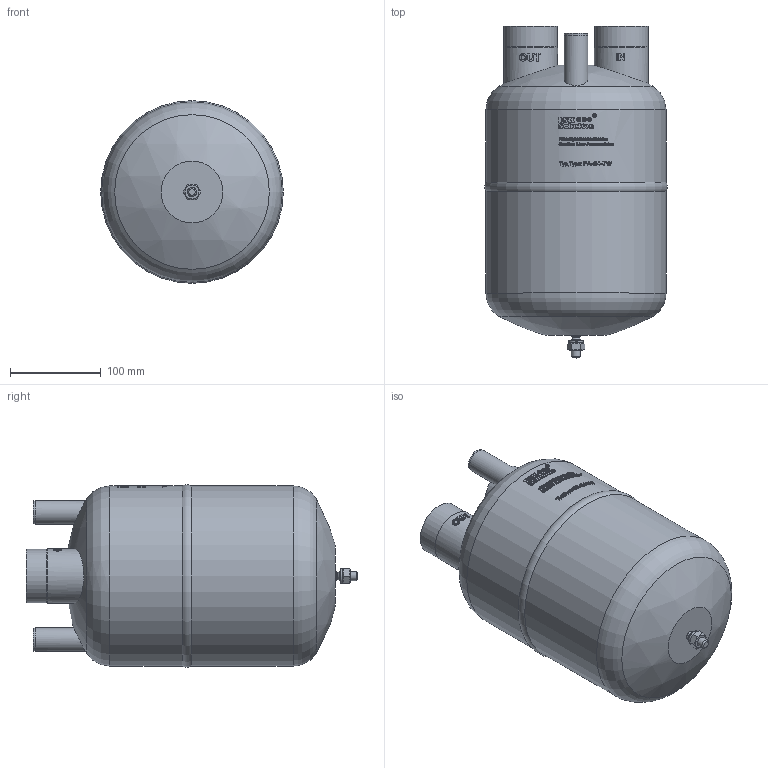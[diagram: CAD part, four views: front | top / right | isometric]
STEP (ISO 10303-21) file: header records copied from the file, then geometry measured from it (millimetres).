
FILE_DESCRIPTION(/* description */ (''),/* implementation_level */ '2;1');
FILE_NAME(/* name */ 'P:\FA\FA-54-7W\FA-54-7W.stp',/* time_stamp */ '2017-10-05T07:55:41+02:00',/* author */ ('neufeld'),/* organization */ (''),/* preprocessor_version */ 'ST-DEVELOPER v16.1',/* originating_system */ 'Autodesk Inventor 2016',/* authorisation */ '');
FILE_SCHEMA (('AUTOMOTIVE_DESIGN { 1 0 10303 214 3 1 1 }'));
Length unit declared in the file: millimetre
Products named in the file (2): FA-54-7W; FA-54-7W_1
Assembly tree (1 placements, depth 2):
  FA-54-7W_1
    FA-54-7W
Bounding box: 200.8 x 365 x 200.8 mm (x, y, z)
Volume: 8388314.8 mm3; surface area: 255401.6 mm2
Topology: 1 solids, 1 shells, 1314 faces, 3554 edges, 2367 vertices
Faces by surface type: plane 713, bspline 454, cylinder 130, cone 12, torus 3, sphere 2
Full cylindrical faces by diameter (mm): 7 x1, 10 x2, 22.4 x2, 25.4 x2, 26 x2, 54.3 x2, 59 x2, 59.5 x2, 198 x2
Entity records: 51026 total; most frequent: CARTESIAN_POINT 20331, ORIENTED_EDGE 7026, DIRECTION 5240, EDGE_CURVE 3513, VERTEX_POINT 2358, AXIS2_PLACEMENT_3D 1791, LINE 1658, VECTOR 1658
